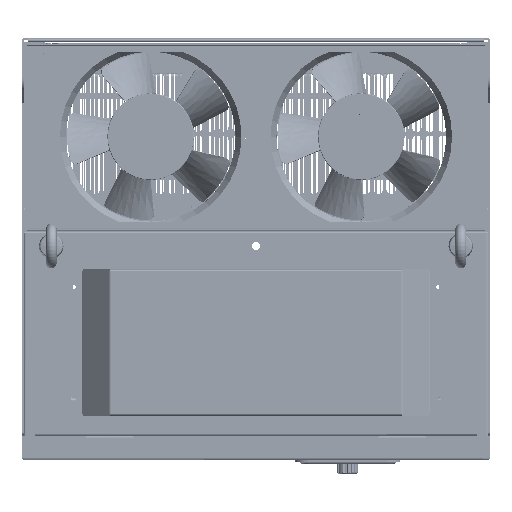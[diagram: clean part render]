
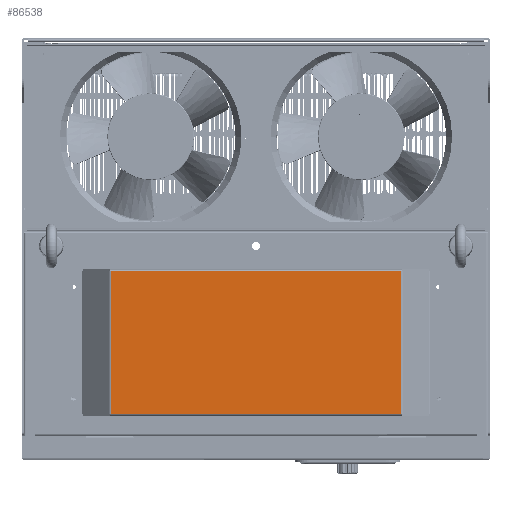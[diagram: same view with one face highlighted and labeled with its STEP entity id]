
A CAD part, left-side view. The second image highlights one B-rep face of the part: STEP entity #86538.
In plain terms, the highlighted planar face has unit normal (-1, 0, 0).
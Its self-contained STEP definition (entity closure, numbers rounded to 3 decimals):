
#79958=DIRECTION('',(0.,0.,-1.));
#79959=VECTOR('',#79958,248.592);
#79960=CARTESIAN_POINT('',(0.,60.8,124.296));
#79961=LINE('',#79960,#79959);
#80006=DIRECTION('',(0.,-1.,0.));
#80007=VECTOR('',#80006,121.6);
#80008=CARTESIAN_POINT('',(0.,60.8,-124.296));
#80009=LINE('',#80008,#80007);
#80036=DIRECTION('',(0.,0.,1.));
#80037=VECTOR('',#80036,248.592);
#80038=CARTESIAN_POINT('',(0.,-60.8,-124.296));
#80039=LINE('',#80038,#80037);
#80084=DIRECTION('',(0.,1.,0.));
#80085=VECTOR('',#80084,121.6);
#80086=CARTESIAN_POINT('',(0.,-60.8,124.296));
#80087=LINE('',#80086,#80085);
#85026=CARTESIAN_POINT('',(0.,60.8,124.296));
#85027=CARTESIAN_POINT('',(0.,60.8,-124.296));
#85028=VERTEX_POINT('',#85026);
#85029=VERTEX_POINT('',#85027);
#85030=CARTESIAN_POINT('',(0.,-60.8,124.296));
#85031=VERTEX_POINT('',#85030);
#85032=CARTESIAN_POINT('',(0.,-60.8,-124.296));
#85033=VERTEX_POINT('',#85032);
#86523=CARTESIAN_POINT('',(0.,0.,0.));
#86524=DIRECTION('',(1.,0.,0.));
#86525=DIRECTION('',(0.,-1.,0.));
#86526=AXIS2_PLACEMENT_3D('',#86523,#86524,#86525);
#86527=PLANE('',#86526);
#86529=ORIENTED_EDGE('',*,*,#86528,.F.);
#86531=ORIENTED_EDGE('',*,*,#86530,.F.);
#86533=ORIENTED_EDGE('',*,*,#86532,.F.);
#86535=ORIENTED_EDGE('',*,*,#86534,.F.);
#86536=EDGE_LOOP('',(#86529,#86531,#86533,#86535));
#86537=FACE_OUTER_BOUND('',#86536,.F.);
#86528=EDGE_CURVE('',#85028,#85029,#79961,.T.);
#86530=EDGE_CURVE('',#85031,#85028,#80087,.T.);
#86532=EDGE_CURVE('',#85033,#85031,#80039,.T.);
#86534=EDGE_CURVE('',#85029,#85033,#80009,.T.);
#86538=ADVANCED_FACE('',(#86537),#86527,.F.);
